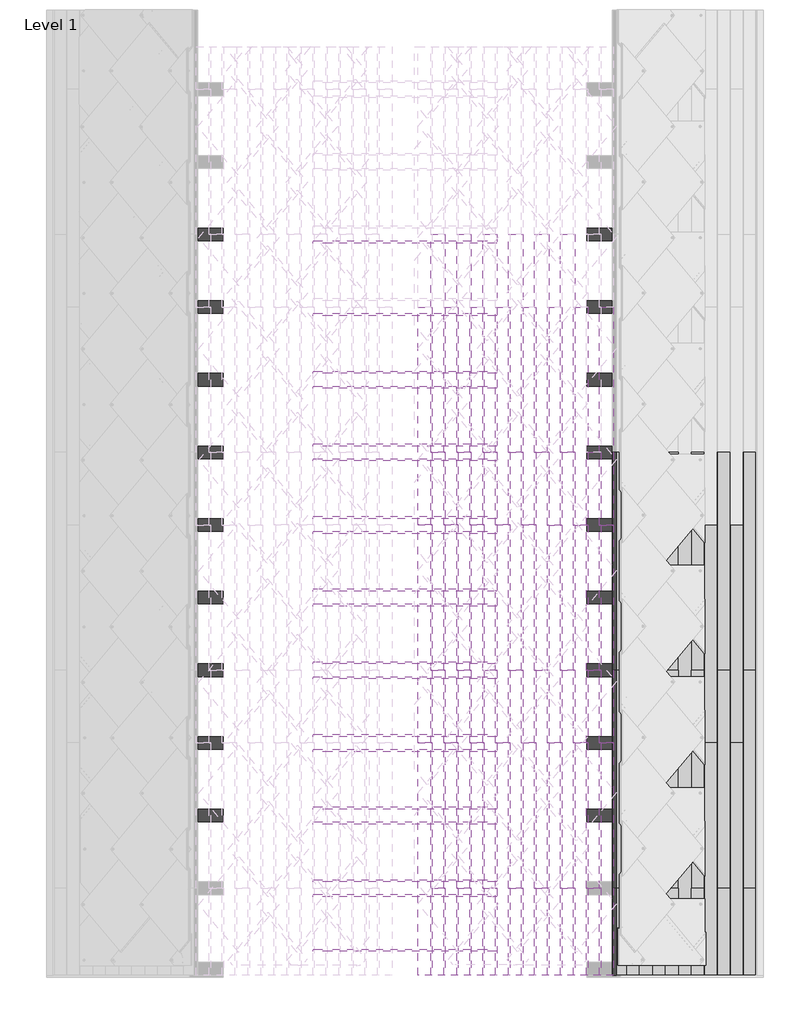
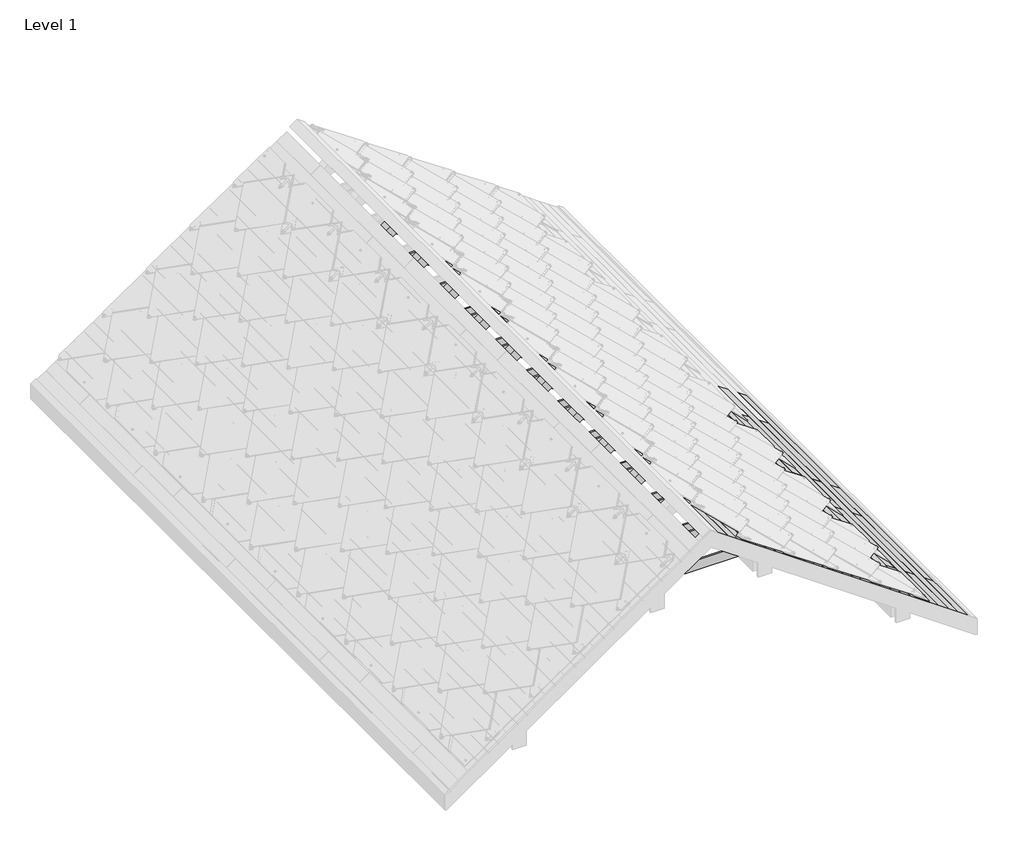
# One storey, part 2 of 6: 109 beams.
"""IFC4 building model written with IfcOpenShell, lengths in millimetres."""

from ifc_helpers import new_model, si_unit, origin, place, context, project, spatial, transform, mapped, element, save
from components import structural_framing_1_structural_framing_1_4f4e03de, structural_framing_161_structural_framing_15_e03e88da, structural_framing_163_structural_framing_15_fd44f6a2, structural_framing_156_structural_framing_15_8572bb24, structural_framing_159_structural_framing_15_e730e61d, structural_framing_296_structural_framing_296_04115515, structural_framing_298_structural_framing_296_1c13a3da

model = new_model("IFC4")

# Units and contexts
model_context = context("Model", 3, world=origin())
ifc_project = project(units=[si_unit("LENGTHUNIT", "METRE", prefix="MILLI")], contexts=[model_context])

# Site, building, storey
site = spatial("IfcSite", under=ifc_project)
building = spatial("IfcBuilding", under=site)
storey = spatial("IfcBuildingStorey", under=building, Name="Level 1", Elevation=0.0)

# Beams
placement = place(None, origin())
structural_framing_1_structural_framing_1_shape = structural_framing_1_structural_framing_1_4f4e03de(model_context)
element("IfcBeam", 1, ObjectType="Structural Framing 10 : Structural Framing 1", at=placement, inside=storey, context=model_context, shape_type="MappedRepresentation", body=[
    mapped(structural_framing_1_structural_framing_1_shape, transform((57.4878711, -7200.0, 0.0), x_axis=(1.0, 0.0, 0.0), y_axis=(0.0, 1.0, 0.0), z_axis=(0.0, 0.0, 1.0))),
])
element("IfcBeam", 2, ObjectType="Structural Framing 11 : Structural Framing 1", at=placement, inside=storey, context=model_context, shape_type="MappedRepresentation", body=[
    mapped(structural_framing_1_structural_framing_1_shape, transform((57.4878711, -8000.0, 0.0), x_axis=(1.0, 0.0, 0.0), y_axis=(0.0, 1.0, 0.0), z_axis=(0.0, 0.0, 1.0))),
])
element("IfcBeam", 3, ObjectType="Structural Framing 12 : Structural Framing 1", at=placement, inside=storey, context=model_context, shape_type="MappedRepresentation", body=[
    mapped(structural_framing_1_structural_framing_1_shape, transform((57.4878711, -8800.0, 0.0), x_axis=(1.0, 0.0, 0.0), y_axis=(0.0, 1.0, 0.0), z_axis=(0.0, 0.0, 1.0))),
])
structural_framing_161_structural_framing_15_shape = structural_framing_161_structural_framing_15_e03e88da(model_context)
element("IfcBeam", 4, ObjectType="Structural Framing 161 : Structural Framing 15", at=placement, inside=storey, context=model_context, shape_type="MappedRepresentation", body=[
    mapped(structural_framing_161_structural_framing_15_shape, transform((200.3026718, -3340.0, -100.0), x_axis=(1.0, 0.0, 0.0), y_axis=(0.0, 1.0, 0.0), z_axis=(0.0, 0.0, 1.0))),
])
element("IfcBeam", 5, ObjectType="Structural Framing 162 : Structural Framing 15", at=placement, inside=storey, context=model_context, shape_type="MappedRepresentation", body=[
    mapped(structural_framing_161_structural_framing_15_shape, transform((200.3026718, -5740.0, -100.0), x_axis=(1.0, 0.0, 0.0), y_axis=(0.0, 1.0, 0.0), z_axis=(0.0, 0.0, 1.0))),
])
structural_framing_163_structural_framing_15_shape = structural_framing_163_structural_framing_15_fd44f6a2(model_context)
element("IfcBeam", 6, ObjectType="Structural Framing 163 : Structural Framing 15", at=placement, inside=storey, context=model_context, shape_type="MappedRepresentation", body=[
    mapped(structural_framing_163_structural_framing_15_shape, transform((200.3026718, -8140.0, -100.0), x_axis=(1.0, 0.0, 0.0), y_axis=(0.0, 1.0, 0.0), z_axis=(0.0, 0.0, 1.0))),
])
structural_framing_156_structural_framing_15_shape = structural_framing_156_structural_framing_15_8572bb24(model_context)
element("IfcBeam", 7, ObjectType="Structural Framing 166 : Structural Framing 15", at=placement, inside=storey, context=model_context, shape_type="MappedRepresentation", body=[
    mapped(structural_framing_156_structural_framing_15_shape, transform((343.1174725, -2470.0, -200.0), x_axis=(1.0, 0.0, 0.0), y_axis=(0.0, 1.0, 0.0), z_axis=(0.0, 0.0, 1.0))),
])
element("IfcBeam", 8, ObjectType="Structural Framing 167 : Structural Framing 15", at=placement, inside=storey, context=model_context, shape_type="MappedRepresentation", body=[
    mapped(structural_framing_156_structural_framing_15_shape, transform((343.1174725, -4870.0, -200.0), x_axis=(1.0, 0.0, 0.0), y_axis=(0.0, 1.0, 0.0), z_axis=(0.0, 0.0, 1.0))),
])
element("IfcBeam", 9, ObjectType="Structural Framing 168 : Structural Framing 15", at=placement, inside=storey, context=model_context, shape_type="MappedRepresentation", body=[
    mapped(structural_framing_156_structural_framing_15_shape, transform((343.1174725, -7270.0, -200.0), x_axis=(1.0, 0.0, 0.0), y_axis=(0.0, 1.0, 0.0), z_axis=(0.0, 0.0, 1.0))),
])
structural_framing_159_structural_framing_15_shape = structural_framing_159_structural_framing_15_e730e61d(model_context)
element("IfcBeam", 10, ObjectType="Structural Framing 169 : Structural Framing 15", at=placement, inside=storey, context=model_context, shape_type="MappedRepresentation", body=[
    mapped(structural_framing_159_structural_framing_15_shape, transform((343.1174725, -9670.0, -200.0), x_axis=(1.0, 0.0, 0.0), y_axis=(0.0, 1.0, 0.0), z_axis=(0.0, 0.0, 1.0))),
])
element("IfcBeam", 11, ObjectType="Structural Framing 171 : Structural Framing 15", at=placement, inside=storey, context=model_context, shape_type="MappedRepresentation", body=[
    mapped(structural_framing_161_structural_framing_15_shape, transform((485.9322731, -3340.0, -300.0), x_axis=(1.0, 0.0, 0.0), y_axis=(0.0, 1.0, 0.0), z_axis=(0.0, 0.0, 1.0))),
])
element("IfcBeam", 12, ObjectType="Structural Framing 172 : Structural Framing 15", at=placement, inside=storey, context=model_context, shape_type="MappedRepresentation", body=[
    mapped(structural_framing_161_structural_framing_15_shape, transform((485.9322731, -5740.0, -300.0), x_axis=(1.0, 0.0, 0.0), y_axis=(0.0, 1.0, 0.0), z_axis=(0.0, 0.0, 1.0))),
])
element("IfcBeam", 13, ObjectType="Structural Framing 173 : Structural Framing 15", at=placement, inside=storey, context=model_context, shape_type="MappedRepresentation", body=[
    mapped(structural_framing_163_structural_framing_15_shape, transform((485.9322731, -8140.0, -300.0), x_axis=(1.0, 0.0, 0.0), y_axis=(0.0, 1.0, 0.0), z_axis=(0.0, 0.0, 1.0))),
])
element("IfcBeam", 14, ObjectType="Structural Framing 176 : Structural Framing 15", at=placement, inside=storey, context=model_context, shape_type="MappedRepresentation", body=[
    mapped(structural_framing_156_structural_framing_15_shape, transform((628.7470738, -2470.0, -400.0), x_axis=(1.0, 0.0, 0.0), y_axis=(0.0, 1.0, 0.0), z_axis=(0.0, 0.0, 1.0))),
])
element("IfcBeam", 15, ObjectType="Structural Framing 177 : Structural Framing 15", at=placement, inside=storey, context=model_context, shape_type="MappedRepresentation", body=[
    mapped(structural_framing_156_structural_framing_15_shape, transform((628.7470738, -4870.0, -400.0), x_axis=(1.0, 0.0, 0.0), y_axis=(0.0, 1.0, 0.0), z_axis=(0.0, 0.0, 1.0))),
])
element("IfcBeam", 16, ObjectType="Structural Framing 178 : Structural Framing 15", at=placement, inside=storey, context=model_context, shape_type="MappedRepresentation", body=[
    mapped(structural_framing_156_structural_framing_15_shape, transform((628.7470738, -7270.0, -400.0), x_axis=(1.0, 0.0, 0.0), y_axis=(0.0, 1.0, 0.0), z_axis=(0.0, 0.0, 1.0))),
])
element("IfcBeam", 17, ObjectType="Structural Framing 179 : Structural Framing 15", at=placement, inside=storey, context=model_context, shape_type="MappedRepresentation", body=[
    mapped(structural_framing_159_structural_framing_15_shape, transform((628.7470738, -9670.0, -400.0), x_axis=(1.0, 0.0, 0.0), y_axis=(0.0, 1.0, 0.0), z_axis=(0.0, 0.0, 1.0))),
])
element("IfcBeam", 18, ObjectType="Structural Framing 181 : Structural Framing 15", at=placement, inside=storey, context=model_context, shape_type="MappedRepresentation", body=[
    mapped(structural_framing_161_structural_framing_15_shape, transform((771.5618745, -3340.0, -500.0), x_axis=(1.0, 0.0, 0.0), y_axis=(0.0, 1.0, 0.0), z_axis=(0.0, 0.0, 1.0))),
])
element("IfcBeam", 19, ObjectType="Structural Framing 182 : Structural Framing 15", at=placement, inside=storey, context=model_context, shape_type="MappedRepresentation", body=[
    mapped(structural_framing_161_structural_framing_15_shape, transform((771.5618745, -5740.0, -500.0), x_axis=(1.0, 0.0, 0.0), y_axis=(0.0, 1.0, 0.0), z_axis=(0.0, 0.0, 1.0))),
])
element("IfcBeam", 20, ObjectType="Structural Framing 183 : Structural Framing 15", at=placement, inside=storey, context=model_context, shape_type="MappedRepresentation", body=[
    mapped(structural_framing_163_structural_framing_15_shape, transform((771.5618745, -8140.0, -500.0), x_axis=(1.0, 0.0, 0.0), y_axis=(0.0, 1.0, 0.0), z_axis=(0.0, 0.0, 1.0))),
])
element("IfcBeam", 21, ObjectType="Structural Framing 186 : Structural Framing 15", at=placement, inside=storey, context=model_context, shape_type="MappedRepresentation", body=[
    mapped(structural_framing_156_structural_framing_15_shape, transform((914.3766752, -2470.0, -600.0), x_axis=(1.0, 0.0, 0.0), y_axis=(0.0, 1.0, 0.0), z_axis=(0.0, 0.0, 1.0))),
])
element("IfcBeam", 22, ObjectType="Structural Framing 187 : Structural Framing 15", at=placement, inside=storey, context=model_context, shape_type="MappedRepresentation", body=[
    mapped(structural_framing_156_structural_framing_15_shape, transform((914.3766752, -4870.0, -600.0), x_axis=(1.0, 0.0, 0.0), y_axis=(0.0, 1.0, 0.0), z_axis=(0.0, 0.0, 1.0))),
])
element("IfcBeam", 23, ObjectType="Structural Framing 188 : Structural Framing 15", at=placement, inside=storey, context=model_context, shape_type="MappedRepresentation", body=[
    mapped(structural_framing_156_structural_framing_15_shape, transform((914.3766752, -7270.0, -600.0), x_axis=(1.0, 0.0, 0.0), y_axis=(0.0, 1.0, 0.0), z_axis=(0.0, 0.0, 1.0))),
])
element("IfcBeam", 24, ObjectType="Structural Framing 189 : Structural Framing 15", at=placement, inside=storey, context=model_context, shape_type="MappedRepresentation", body=[
    mapped(structural_framing_159_structural_framing_15_shape, transform((914.3766752, -9670.0, -600.0), x_axis=(1.0, 0.0, 0.0), y_axis=(0.0, 1.0, 0.0), z_axis=(0.0, 0.0, 1.0))),
])
element("IfcBeam", 25, ObjectType="Structural Framing 191 : Structural Framing 15", at=placement, inside=storey, context=model_context, shape_type="MappedRepresentation", body=[
    mapped(structural_framing_161_structural_framing_15_shape, transform((1057.1914758, -3340.0, -700.0), x_axis=(1.0, 0.0, 0.0), y_axis=(0.0, 1.0, 0.0), z_axis=(0.0, 0.0, 1.0))),
])
element("IfcBeam", 26, ObjectType="Structural Framing 192 : Structural Framing 15", at=placement, inside=storey, context=model_context, shape_type="MappedRepresentation", body=[
    mapped(structural_framing_161_structural_framing_15_shape, transform((1057.1914758, -5740.0, -700.0), x_axis=(1.0, 0.0, 0.0), y_axis=(0.0, 1.0, 0.0), z_axis=(0.0, 0.0, 1.0))),
])
element("IfcBeam", 27, ObjectType="Structural Framing 193 : Structural Framing 15", at=placement, inside=storey, context=model_context, shape_type="MappedRepresentation", body=[
    mapped(structural_framing_163_structural_framing_15_shape, transform((1057.1914758, -8140.0, -700.0), x_axis=(1.0, 0.0, 0.0), y_axis=(0.0, 1.0, 0.0), z_axis=(0.0, 0.0, 1.0))),
])
element("IfcBeam", 28, ObjectType="Structural Framing 196 : Structural Framing 15", at=placement, inside=storey, context=model_context, shape_type="MappedRepresentation", body=[
    mapped(structural_framing_156_structural_framing_15_shape, transform((1200.0062765, -2470.0, -800.0), x_axis=(1.0, 0.0, 0.0), y_axis=(0.0, 1.0, 0.0), z_axis=(0.0, 0.0, 1.0))),
])
element("IfcBeam", 29, ObjectType="Structural Framing 197 : Structural Framing 15", at=placement, inside=storey, context=model_context, shape_type="MappedRepresentation", body=[
    mapped(structural_framing_156_structural_framing_15_shape, transform((1200.0062765, -4870.0, -800.0), x_axis=(1.0, 0.0, 0.0), y_axis=(0.0, 1.0, 0.0), z_axis=(0.0, 0.0, 1.0))),
])
element("IfcBeam", 30, ObjectType="Structural Framing 198 : Structural Framing 15", at=placement, inside=storey, context=model_context, shape_type="MappedRepresentation", body=[
    mapped(structural_framing_156_structural_framing_15_shape, transform((1200.0062765, -7270.0, -800.0), x_axis=(1.0, 0.0, 0.0), y_axis=(0.0, 1.0, 0.0), z_axis=(0.0, 0.0, 1.0))),
])
element("IfcBeam", 31, ObjectType="Structural Framing 199 : Structural Framing 15", at=placement, inside=storey, context=model_context, shape_type="MappedRepresentation", body=[
    mapped(structural_framing_159_structural_framing_15_shape, transform((1200.0062765, -9670.0, -800.0), x_axis=(1.0, 0.0, 0.0), y_axis=(0.0, 1.0, 0.0), z_axis=(0.0, 0.0, 1.0))),
])
element("IfcBeam", 32, ObjectType="Structural Framing 201 : Structural Framing 15", at=placement, inside=storey, context=model_context, shape_type="MappedRepresentation", body=[
    mapped(structural_framing_161_structural_framing_15_shape, transform((1342.8210772, -3340.0, -900.0), x_axis=(1.0, 0.0, 0.0), y_axis=(0.0, 1.0, 0.0), z_axis=(0.0, 0.0, 1.0))),
])
element("IfcBeam", 33, ObjectType="Structural Framing 202 : Structural Framing 15", at=placement, inside=storey, context=model_context, shape_type="MappedRepresentation", body=[
    mapped(structural_framing_161_structural_framing_15_shape, transform((1342.8210772, -5740.0, -900.0), x_axis=(1.0, 0.0, 0.0), y_axis=(0.0, 1.0, 0.0), z_axis=(0.0, 0.0, 1.0))),
])
element("IfcBeam", 34, ObjectType="Structural Framing 203 : Structural Framing 15", at=placement, inside=storey, context=model_context, shape_type="MappedRepresentation", body=[
    mapped(structural_framing_163_structural_framing_15_shape, transform((1342.8210772, -8140.0, -900.0), x_axis=(1.0, 0.0, 0.0), y_axis=(0.0, 1.0, 0.0), z_axis=(0.0, 0.0, 1.0))),
])
element("IfcBeam", 35, ObjectType="Structural Framing 206 : Structural Framing 15", at=placement, inside=storey, context=model_context, shape_type="MappedRepresentation", body=[
    mapped(structural_framing_156_structural_framing_15_shape, transform((1485.6358779, -2470.0, -1000.0), x_axis=(1.0, 0.0, 0.0), y_axis=(0.0, 1.0, 0.0), z_axis=(0.0, 0.0, 1.0))),
])
element("IfcBeam", 36, ObjectType="Structural Framing 207 : Structural Framing 15", at=placement, inside=storey, context=model_context, shape_type="MappedRepresentation", body=[
    mapped(structural_framing_156_structural_framing_15_shape, transform((1485.6358779, -4870.0, -1000.0), x_axis=(1.0, 0.0, 0.0), y_axis=(0.0, 1.0, 0.0), z_axis=(0.0, 0.0, 1.0))),
])
element("IfcBeam", 37, ObjectType="Structural Framing 208 : Structural Framing 15", at=placement, inside=storey, context=model_context, shape_type="MappedRepresentation", body=[
    mapped(structural_framing_156_structural_framing_15_shape, transform((1485.6358779, -7270.0, -1000.0), x_axis=(1.0, 0.0, 0.0), y_axis=(0.0, 1.0, 0.0), z_axis=(0.0, 0.0, 1.0))),
])
element("IfcBeam", 38, ObjectType="Structural Framing 209 : Structural Framing 15", at=placement, inside=storey, context=model_context, shape_type="MappedRepresentation", body=[
    mapped(structural_framing_159_structural_framing_15_shape, transform((1485.6358779, -9670.0, -1000.0), x_axis=(1.0, 0.0, 0.0), y_axis=(0.0, 1.0, 0.0), z_axis=(0.0, 0.0, 1.0))),
])
element("IfcBeam", 39, ObjectType="Structural Framing 211 : Structural Framing 15", at=placement, inside=storey, context=model_context, shape_type="MappedRepresentation", body=[
    mapped(structural_framing_161_structural_framing_15_shape, transform((1628.4506785, -3340.0, -1100.0), x_axis=(1.0, 0.0, 0.0), y_axis=(0.0, 1.0, 0.0), z_axis=(0.0, 0.0, 1.0))),
])
element("IfcBeam", 40, ObjectType="Structural Framing 212 : Structural Framing 15", at=placement, inside=storey, context=model_context, shape_type="MappedRepresentation", body=[
    mapped(structural_framing_161_structural_framing_15_shape, transform((1628.4506785, -5740.0, -1100.0), x_axis=(1.0, 0.0, 0.0), y_axis=(0.0, 1.0, 0.0), z_axis=(0.0, 0.0, 1.0))),
])
element("IfcBeam", 41, ObjectType="Structural Framing 213 : Structural Framing 15", at=placement, inside=storey, context=model_context, shape_type="MappedRepresentation", body=[
    mapped(structural_framing_163_structural_framing_15_shape, transform((1628.4506785, -8140.0, -1100.0), x_axis=(1.0, 0.0, 0.0), y_axis=(0.0, 1.0, 0.0), z_axis=(0.0, 0.0, 1.0))),
])
element("IfcBeam", 42, ObjectType="Structural Framing 216 : Structural Framing 15", at=placement, inside=storey, context=model_context, shape_type="MappedRepresentation", body=[
    mapped(structural_framing_156_structural_framing_15_shape, transform((1771.2654792, -2470.0, -1200.0), x_axis=(1.0, 0.0, 0.0), y_axis=(0.0, 1.0, 0.0), z_axis=(0.0, 0.0, 1.0))),
])
element("IfcBeam", 43, ObjectType="Structural Framing 217 : Structural Framing 15", at=placement, inside=storey, context=model_context, shape_type="MappedRepresentation", body=[
    mapped(structural_framing_156_structural_framing_15_shape, transform((1771.2654792, -4870.0, -1200.0), x_axis=(1.0, 0.0, 0.0), y_axis=(0.0, 1.0, 0.0), z_axis=(0.0, 0.0, 1.0))),
])
element("IfcBeam", 44, ObjectType="Structural Framing 218 : Structural Framing 15", at=placement, inside=storey, context=model_context, shape_type="MappedRepresentation", body=[
    mapped(structural_framing_156_structural_framing_15_shape, transform((1771.2654792, -7270.0, -1200.0), x_axis=(1.0, 0.0, 0.0), y_axis=(0.0, 1.0, 0.0), z_axis=(0.0, 0.0, 1.0))),
])
element("IfcBeam", 45, ObjectType="Structural Framing 219 : Structural Framing 15", at=placement, inside=storey, context=model_context, shape_type="MappedRepresentation", body=[
    mapped(structural_framing_159_structural_framing_15_shape, transform((1771.2654792, -9670.0, -1200.0), x_axis=(1.0, 0.0, 0.0), y_axis=(0.0, 1.0, 0.0), z_axis=(0.0, 0.0, 1.0))),
])
element("IfcBeam", 46, ObjectType="Structural Framing 221 : Structural Framing 15", at=placement, inside=storey, context=model_context, shape_type="MappedRepresentation", body=[
    mapped(structural_framing_161_structural_framing_15_shape, transform((1914.0802799, -3340.0, -1300.0), x_axis=(1.0, 0.0, 0.0), y_axis=(0.0, 1.0, 0.0), z_axis=(0.0, 0.0, 1.0))),
])
element("IfcBeam", 47, ObjectType="Structural Framing 222 : Structural Framing 15", at=placement, inside=storey, context=model_context, shape_type="MappedRepresentation", body=[
    mapped(structural_framing_161_structural_framing_15_shape, transform((1914.0802799, -5740.0, -1300.0), x_axis=(1.0, 0.0, 0.0), y_axis=(0.0, 1.0, 0.0), z_axis=(0.0, 0.0, 1.0))),
])
element("IfcBeam", 48, ObjectType="Structural Framing 223 : Structural Framing 15", at=placement, inside=storey, context=model_context, shape_type="MappedRepresentation", body=[
    mapped(structural_framing_163_structural_framing_15_shape, transform((1914.0802799, -8140.0, -1300.0), x_axis=(1.0, 0.0, 0.0), y_axis=(0.0, 1.0, 0.0), z_axis=(0.0, 0.0, 1.0))),
])
element("IfcBeam", 49, ObjectType="Structural Framing 227 : Structural Framing 15", at=placement, inside=storey, context=model_context, shape_type="MappedRepresentation", body=[
    mapped(structural_framing_156_structural_framing_15_shape, transform((2056.8950805, -4870.0, -1400.0), x_axis=(1.0, 0.0, 0.0), y_axis=(0.0, 1.0, 0.0), z_axis=(0.0, 0.0, 1.0))),
])
element("IfcBeam", 50, ObjectType="Structural Framing 228 : Structural Framing 15", at=placement, inside=storey, context=model_context, shape_type="MappedRepresentation", body=[
    mapped(structural_framing_156_structural_framing_15_shape, transform((2056.8950805, -7270.0, -1400.0), x_axis=(1.0, 0.0, 0.0), y_axis=(0.0, 1.0, 0.0), z_axis=(0.0, 0.0, 1.0))),
])
element("IfcBeam", 51, ObjectType="Structural Framing 229 : Structural Framing 15", at=placement, inside=storey, context=model_context, shape_type="MappedRepresentation", body=[
    mapped(structural_framing_159_structural_framing_15_shape, transform((2056.8950805, -9670.0, -1400.0), x_axis=(1.0, 0.0, 0.0), y_axis=(0.0, 1.0, 0.0), z_axis=(0.0, 0.0, 1.0))),
])
element("IfcBeam", 52, ObjectType="Structural Framing 231 : Structural Framing 15", at=placement, inside=storey, context=model_context, shape_type="MappedRepresentation", body=[
    mapped(structural_framing_161_structural_framing_15_shape, transform((2199.7098812, -3340.0, -1500.0), x_axis=(1.0, 0.0, 0.0), y_axis=(0.0, 1.0, 0.0), z_axis=(0.0, 0.0, 1.0))),
])
element("IfcBeam", 53, ObjectType="Structural Framing 232 : Structural Framing 15", at=placement, inside=storey, context=model_context, shape_type="MappedRepresentation", body=[
    mapped(structural_framing_161_structural_framing_15_shape, transform((2199.7098812, -5740.0, -1500.0), x_axis=(1.0, 0.0, 0.0), y_axis=(0.0, 1.0, 0.0), z_axis=(0.0, 0.0, 1.0))),
])
element("IfcBeam", 54, ObjectType="Structural Framing 233 : Structural Framing 15", at=placement, inside=storey, context=model_context, shape_type="MappedRepresentation", body=[
    mapped(structural_framing_163_structural_framing_15_shape, transform((2199.7098812, -8140.0, -1500.0), x_axis=(1.0, 0.0, 0.0), y_axis=(0.0, 1.0, 0.0), z_axis=(0.0, 0.0, 1.0))),
])
element("IfcBeam", 55, ObjectType="Structural Framing 237 : Structural Framing 15", at=placement, inside=storey, context=model_context, shape_type="MappedRepresentation", body=[
    mapped(structural_framing_156_structural_framing_15_shape, transform((2342.5246819, -4870.0, -1600.0), x_axis=(1.0, 0.0, 0.0), y_axis=(0.0, 1.0, 0.0), z_axis=(0.0, 0.0, 1.0))),
])
element("IfcBeam", 56, ObjectType="Structural Framing 238 : Structural Framing 15", at=placement, inside=storey, context=model_context, shape_type="MappedRepresentation", body=[
    mapped(structural_framing_156_structural_framing_15_shape, transform((2342.5246819, -7270.0, -1600.0), x_axis=(1.0, 0.0, 0.0), y_axis=(0.0, 1.0, 0.0), z_axis=(0.0, 0.0, 1.0))),
])
element("IfcBeam", 57, ObjectType="Structural Framing 239 : Structural Framing 15", at=placement, inside=storey, context=model_context, shape_type="MappedRepresentation", body=[
    mapped(structural_framing_159_structural_framing_15_shape, transform((2342.5246819, -9670.0, -1600.0), x_axis=(1.0, 0.0, 0.0), y_axis=(0.0, 1.0, 0.0), z_axis=(0.0, 0.0, 1.0))),
])
element("IfcBeam", 58, ObjectType="Structural Framing 241 : Structural Framing 15", at=placement, inside=storey, context=model_context, shape_type="MappedRepresentation", body=[
    mapped(structural_framing_161_structural_framing_15_shape, transform((2485.3394826, -3340.0, -1700.0), x_axis=(1.0, 0.0, 0.0), y_axis=(0.0, 1.0, 0.0), z_axis=(0.0, 0.0, 1.0))),
])
element("IfcBeam", 59, ObjectType="Structural Framing 242 : Structural Framing 15", at=placement, inside=storey, context=model_context, shape_type="MappedRepresentation", body=[
    mapped(structural_framing_161_structural_framing_15_shape, transform((2485.3394826, -5740.0, -1700.0), x_axis=(1.0, 0.0, 0.0), y_axis=(0.0, 1.0, 0.0), z_axis=(0.0, 0.0, 1.0))),
])
element("IfcBeam", 60, ObjectType="Structural Framing 243 : Structural Framing 15", at=placement, inside=storey, context=model_context, shape_type="MappedRepresentation", body=[
    mapped(structural_framing_163_structural_framing_15_shape, transform((2485.3394826, -8140.0, -1700.0), x_axis=(1.0, 0.0, 0.0), y_axis=(0.0, 1.0, 0.0), z_axis=(0.0, 0.0, 1.0))),
])
element("IfcBeam", 61, ObjectType="Structural Framing 247 : Structural Framing 15", at=placement, inside=storey, context=model_context, shape_type="MappedRepresentation", body=[
    mapped(structural_framing_156_structural_framing_15_shape, transform((2628.1542832, -4870.0, -1800.0), x_axis=(1.0, 0.0, 0.0), y_axis=(0.0, 1.0, 0.0), z_axis=(0.0, 0.0, 1.0))),
])
element("IfcBeam", 62, ObjectType="Structural Framing 248 : Structural Framing 15", at=placement, inside=storey, context=model_context, shape_type="MappedRepresentation", body=[
    mapped(structural_framing_156_structural_framing_15_shape, transform((2628.1542832, -7270.0, -1800.0), x_axis=(1.0, 0.0, 0.0), y_axis=(0.0, 1.0, 0.0), z_axis=(0.0, 0.0, 1.0))),
])
element("IfcBeam", 63, ObjectType="Structural Framing 249 : Structural Framing 15", at=placement, inside=storey, context=model_context, shape_type="MappedRepresentation", body=[
    mapped(structural_framing_159_structural_framing_15_shape, transform((2628.1542832, -9670.0, -1800.0), x_axis=(1.0, 0.0, 0.0), y_axis=(0.0, 1.0, 0.0), z_axis=(0.0, 0.0, 1.0))),
])
element("IfcBeam", 64, ObjectType="Structural Framing 251 : Structural Framing 15", at=placement, inside=storey, context=model_context, shape_type="MappedRepresentation", body=[
    mapped(structural_framing_161_structural_framing_15_shape, transform((2770.9690839, -3340.0, -1900.0), x_axis=(1.0, 0.0, 0.0), y_axis=(0.0, 1.0, 0.0), z_axis=(0.0, 0.0, 1.0))),
])
element("IfcBeam", 65, ObjectType="Structural Framing 252 : Structural Framing 15", at=placement, inside=storey, context=model_context, shape_type="MappedRepresentation", body=[
    mapped(structural_framing_161_structural_framing_15_shape, transform((2770.9690839, -5740.0, -1900.0), x_axis=(1.0, 0.0, 0.0), y_axis=(0.0, 1.0, 0.0), z_axis=(0.0, 0.0, 1.0))),
])
element("IfcBeam", 66, ObjectType="Structural Framing 253 : Structural Framing 15", at=placement, inside=storey, context=model_context, shape_type="MappedRepresentation", body=[
    mapped(structural_framing_163_structural_framing_15_shape, transform((2770.9690839, -8140.0, -1900.0), x_axis=(1.0, 0.0, 0.0), y_axis=(0.0, 1.0, 0.0), z_axis=(0.0, 0.0, 1.0))),
])
element("IfcBeam", 67, ObjectType="Structural Framing 257 : Structural Framing 15", at=placement, inside=storey, context=model_context, shape_type="MappedRepresentation", body=[
    mapped(structural_framing_156_structural_framing_15_shape, transform((2913.7838846, -4870.0, -2000.0), x_axis=(1.0, 0.0, 0.0), y_axis=(0.0, 1.0, 0.0), z_axis=(0.0, 0.0, 1.0))),
])
element("IfcBeam", 68, ObjectType="Structural Framing 258 : Structural Framing 15", at=placement, inside=storey, context=model_context, shape_type="MappedRepresentation", body=[
    mapped(structural_framing_156_structural_framing_15_shape, transform((2913.7838846, -7270.0, -2000.0), x_axis=(1.0, 0.0, 0.0), y_axis=(0.0, 1.0, 0.0), z_axis=(0.0, 0.0, 1.0))),
])
element("IfcBeam", 69, ObjectType="Structural Framing 259 : Structural Framing 15", at=placement, inside=storey, context=model_context, shape_type="MappedRepresentation", body=[
    mapped(structural_framing_159_structural_framing_15_shape, transform((2913.7838846, -9670.0, -2000.0), x_axis=(1.0, 0.0, 0.0), y_axis=(0.0, 1.0, 0.0), z_axis=(0.0, 0.0, 1.0))),
])
element("IfcBeam", 70, ObjectType="Structural Framing 262 : Structural Framing 15", at=placement, inside=storey, context=model_context, shape_type="MappedRepresentation", body=[
    mapped(structural_framing_161_structural_framing_15_shape, transform((3056.5986853, -5740.0, -2100.0), x_axis=(1.0, 0.0, 0.0), y_axis=(0.0, 1.0, 0.0), z_axis=(0.0, 0.0, 1.0))),
])
element("IfcBeam", 71, ObjectType="Structural Framing 263 : Structural Framing 15", at=placement, inside=storey, context=model_context, shape_type="MappedRepresentation", body=[
    mapped(structural_framing_163_structural_framing_15_shape, transform((3056.5986853, -8140.0, -2100.0), x_axis=(1.0, 0.0, 0.0), y_axis=(0.0, 1.0, 0.0), z_axis=(0.0, 0.0, 1.0))),
])
element("IfcBeam", 72, ObjectType="Structural Framing 267 : Structural Framing 15", at=placement, inside=storey, context=model_context, shape_type="MappedRepresentation", body=[
    mapped(structural_framing_156_structural_framing_15_shape, transform((3199.4134859, -4870.0, -2200.0), x_axis=(1.0, 0.0, 0.0), y_axis=(0.0, 1.0, 0.0), z_axis=(0.0, 0.0, 1.0))),
])
element("IfcBeam", 73, ObjectType="Structural Framing 268 : Structural Framing 15", at=placement, inside=storey, context=model_context, shape_type="MappedRepresentation", body=[
    mapped(structural_framing_156_structural_framing_15_shape, transform((3199.4134859, -7270.0, -2200.0), x_axis=(1.0, 0.0, 0.0), y_axis=(0.0, 1.0, 0.0), z_axis=(0.0, 0.0, 1.0))),
])
element("IfcBeam", 74, ObjectType="Structural Framing 269 : Structural Framing 15", at=placement, inside=storey, context=model_context, shape_type="MappedRepresentation", body=[
    mapped(structural_framing_159_structural_framing_15_shape, transform((3199.4134859, -9670.0, -2200.0), x_axis=(1.0, 0.0, 0.0), y_axis=(0.0, 1.0, 0.0), z_axis=(0.0, 0.0, 1.0))),
])
element("IfcBeam", 75, ObjectType="Structural Framing 272 : Structural Framing 15", at=placement, inside=storey, context=model_context, shape_type="MappedRepresentation", body=[
    mapped(structural_framing_161_structural_framing_15_shape, transform((3342.2282866, -5740.0, -2300.0), x_axis=(1.0, 0.0, 0.0), y_axis=(0.0, 1.0, 0.0), z_axis=(0.0, 0.0, 1.0))),
])
element("IfcBeam", 76, ObjectType="Structural Framing 273 : Structural Framing 15", at=placement, inside=storey, context=model_context, shape_type="MappedRepresentation", body=[
    mapped(structural_framing_163_structural_framing_15_shape, transform((3342.2282866, -8140.0, -2300.0), x_axis=(1.0, 0.0, 0.0), y_axis=(0.0, 1.0, 0.0), z_axis=(0.0, 0.0, 1.0))),
])
element("IfcBeam", 77, ObjectType="Structural Framing 277 : Structural Framing 15", at=placement, inside=storey, context=model_context, shape_type="MappedRepresentation", body=[
    mapped(structural_framing_156_structural_framing_15_shape, transform((3485.0430873, -4870.0, -2400.0), x_axis=(1.0, 0.0, 0.0), y_axis=(0.0, 1.0, 0.0), z_axis=(0.0, 0.0, 1.0))),
])
element("IfcBeam", 78, ObjectType="Structural Framing 278 : Structural Framing 15", at=placement, inside=storey, context=model_context, shape_type="MappedRepresentation", body=[
    mapped(structural_framing_156_structural_framing_15_shape, transform((3485.0430873, -7270.0, -2400.0), x_axis=(1.0, 0.0, 0.0), y_axis=(0.0, 1.0, 0.0), z_axis=(0.0, 0.0, 1.0))),
])
element("IfcBeam", 79, ObjectType="Structural Framing 279 : Structural Framing 15", at=placement, inside=storey, context=model_context, shape_type="MappedRepresentation", body=[
    mapped(structural_framing_159_structural_framing_15_shape, transform((3485.0430873, -9670.0, -2400.0), x_axis=(1.0, 0.0, 0.0), y_axis=(0.0, 1.0, 0.0), z_axis=(0.0, 0.0, 1.0))),
])
element("IfcBeam", 80, ObjectType="Structural Framing 282 : Structural Framing 15", at=placement, inside=storey, context=model_context, shape_type="MappedRepresentation", body=[
    mapped(structural_framing_161_structural_framing_15_shape, transform((3627.857888, -5740.0, -2500.0), x_axis=(1.0, 0.0, 0.0), y_axis=(0.0, 1.0, 0.0), z_axis=(0.0, 0.0, 1.0))),
])
element("IfcBeam", 81, ObjectType="Structural Framing 283 : Structural Framing 15", at=placement, inside=storey, context=model_context, shape_type="MappedRepresentation", body=[
    mapped(structural_framing_163_structural_framing_15_shape, transform((3627.857888, -8140.0, -2500.0), x_axis=(1.0, 0.0, 0.0), y_axis=(0.0, 1.0, 0.0), z_axis=(0.0, 0.0, 1.0))),
])
element("IfcBeam", 82, ObjectType="Structural Framing 287 : Structural Framing 15", at=placement, inside=storey, context=model_context, shape_type="MappedRepresentation", body=[
    mapped(structural_framing_156_structural_framing_15_shape, transform((3770.6726886, -4870.0, -2600.0), x_axis=(1.0, 0.0, 0.0), y_axis=(0.0, 1.0, 0.0), z_axis=(0.0, 0.0, 1.0))),
])
element("IfcBeam", 83, ObjectType="Structural Framing 288 : Structural Framing 15", at=placement, inside=storey, context=model_context, shape_type="MappedRepresentation", body=[
    mapped(structural_framing_156_structural_framing_15_shape, transform((3770.6726886, -7270.0, -2600.0), x_axis=(1.0, 0.0, 0.0), y_axis=(0.0, 1.0, 0.0), z_axis=(0.0, 0.0, 1.0))),
])
element("IfcBeam", 84, ObjectType="Structural Framing 289 : Structural Framing 15", at=placement, inside=storey, context=model_context, shape_type="MappedRepresentation", body=[
    mapped(structural_framing_159_structural_framing_15_shape, transform((3770.6726886, -9670.0, -2600.0), x_axis=(1.0, 0.0, 0.0), y_axis=(0.0, 1.0, 0.0), z_axis=(0.0, 0.0, 1.0))),
])
structural_framing_296_structural_framing_296_shape = structural_framing_296_structural_framing_296_04115515(model_context)
element("IfcBeam", 85, ObjectType="Structural Framing 301 : Structural Framing 296", at=placement, inside=storey, context=model_context, shape_type="MappedRepresentation", body=[
    mapped(structural_framing_296_structural_framing_296_shape, transform((57.4878711, -2400.0, 0.0), x_axis=(1.0, 0.0, 0.0), y_axis=(0.0, 1.0, 0.0), z_axis=(0.0, 0.0, 1.0))),
])
element("IfcBeam", 86, ObjectType="Structural Framing 303 : Structural Framing 296", at=placement, inside=storey, context=model_context, shape_type="MappedRepresentation", body=[
    mapped(structural_framing_296_structural_framing_296_shape, transform((57.4878711, -3200.0, 0.0), x_axis=(1.0, 0.0, 0.0), y_axis=(0.0, 1.0, 0.0), z_axis=(0.0, 0.0, 1.0))),
])
element("IfcBeam", 87, ObjectType="Structural Framing 305 : Structural Framing 296", at=placement, inside=storey, context=model_context, shape_type="MappedRepresentation", body=[
    mapped(structural_framing_296_structural_framing_296_shape, transform((57.4878711, -4000.0, 0.0), x_axis=(1.0, 0.0, 0.0), y_axis=(0.0, 1.0, 0.0), z_axis=(0.0, 0.0, 1.0))),
])
structural_framing_298_structural_framing_296_shape = structural_framing_298_structural_framing_296_1c13a3da(model_context)
element("IfcBeam", 88, ObjectType="Structural Framing 306 : Structural Framing 296", at=placement, inside=storey, context=model_context, shape_type="MappedRepresentation", body=[
    mapped(structural_framing_298_structural_framing_296_shape, transform((57.4878711, -2400.0, 0.0), x_axis=(1.0, 0.0, 0.0), y_axis=(0.0, 1.0, 0.0), z_axis=(0.0, 0.0, 1.0))),
])
element("IfcBeam", 89, ObjectType="Structural Framing 307 : Structural Framing 296", at=placement, inside=storey, context=model_context, shape_type="MappedRepresentation", body=[
    mapped(structural_framing_296_structural_framing_296_shape, transform((57.4878711, -4800.0, 0.0), x_axis=(1.0, 0.0, 0.0), y_axis=(0.0, 1.0, 0.0), z_axis=(0.0, 0.0, 1.0))),
])
element("IfcBeam", 90, ObjectType="Structural Framing 308 : Structural Framing 296", at=placement, inside=storey, context=model_context, shape_type="MappedRepresentation", body=[
    mapped(structural_framing_298_structural_framing_296_shape, transform((57.4878711, -3200.0, 0.0), x_axis=(1.0, 0.0, 0.0), y_axis=(0.0, 1.0, 0.0), z_axis=(0.0, 0.0, 1.0))),
])
element("IfcBeam", 91, ObjectType="Structural Framing 309 : Structural Framing 296", at=placement, inside=storey, context=model_context, shape_type="MappedRepresentation", body=[
    mapped(structural_framing_296_structural_framing_296_shape, transform((57.4878711, -5600.0, 0.0), x_axis=(1.0, 0.0, 0.0), y_axis=(0.0, 1.0, 0.0), z_axis=(0.0, 0.0, 1.0))),
])
element("IfcBeam", 92, ObjectType="Structural Framing 310 : Structural Framing 296", at=placement, inside=storey, context=model_context, shape_type="MappedRepresentation", body=[
    mapped(structural_framing_298_structural_framing_296_shape, transform((57.4878711, -4000.0, 0.0), x_axis=(1.0, 0.0, 0.0), y_axis=(0.0, 1.0, 0.0), z_axis=(0.0, 0.0, 1.0))),
])
element("IfcBeam", 93, ObjectType="Structural Framing 311 : Structural Framing 296", at=placement, inside=storey, context=model_context, shape_type="MappedRepresentation", body=[
    mapped(structural_framing_296_structural_framing_296_shape, transform((57.4878711, -6400.0, 0.0), x_axis=(1.0, 0.0, 0.0), y_axis=(0.0, 1.0, 0.0), z_axis=(0.0, 0.0, 1.0))),
])
element("IfcBeam", 94, ObjectType="Structural Framing 312 : Structural Framing 296", at=placement, inside=storey, context=model_context, shape_type="MappedRepresentation", body=[
    mapped(structural_framing_298_structural_framing_296_shape, transform((57.4878711, -4800.0, 0.0), x_axis=(1.0, 0.0, 0.0), y_axis=(0.0, 1.0, 0.0), z_axis=(0.0, 0.0, 1.0))),
])
element("IfcBeam", 95, ObjectType="Structural Framing 313 : Structural Framing 296", at=placement, inside=storey, context=model_context, shape_type="MappedRepresentation", body=[
    mapped(structural_framing_296_structural_framing_296_shape, transform((57.4878711, -7200.0, 0.0), x_axis=(1.0, 0.0, 0.0), y_axis=(0.0, 1.0, 0.0), z_axis=(0.0, 0.0, 1.0))),
])
element("IfcBeam", 96, ObjectType="Structural Framing 314 : Structural Framing 296", at=placement, inside=storey, context=model_context, shape_type="MappedRepresentation", body=[
    mapped(structural_framing_298_structural_framing_296_shape, transform((57.4878711, -5600.0, 0.0), x_axis=(1.0, 0.0, 0.0), y_axis=(0.0, 1.0, 0.0), z_axis=(0.0, 0.0, 1.0))),
])
element("IfcBeam", 97, ObjectType="Structural Framing 315 : Structural Framing 296", at=placement, inside=storey, context=model_context, shape_type="MappedRepresentation", body=[
    mapped(structural_framing_296_structural_framing_296_shape, transform((57.4878711, -8000.0, 0.0), x_axis=(1.0, 0.0, 0.0), y_axis=(0.0, 1.0, 0.0), z_axis=(0.0, 0.0, 1.0))),
])
element("IfcBeam", 98, ObjectType="Structural Framing 316 : Structural Framing 296", at=placement, inside=storey, context=model_context, shape_type="MappedRepresentation", body=[
    mapped(structural_framing_298_structural_framing_296_shape, transform((57.4878711, -6400.0, 0.0), x_axis=(1.0, 0.0, 0.0), y_axis=(0.0, 1.0, 0.0), z_axis=(0.0, 0.0, 1.0))),
])
element("IfcBeam", 99, ObjectType="Structural Framing 317 : Structural Framing 296", at=placement, inside=storey, context=model_context, shape_type="MappedRepresentation", body=[
    mapped(structural_framing_296_structural_framing_296_shape, transform((57.4878711, -8800.0, 0.0), x_axis=(1.0, 0.0, 0.0), y_axis=(0.0, 1.0, 0.0), z_axis=(0.0, 0.0, 1.0))),
])
element("IfcBeam", 100, ObjectType="Structural Framing 318 : Structural Framing 296", at=placement, inside=storey, context=model_context, shape_type="MappedRepresentation", body=[
    mapped(structural_framing_298_structural_framing_296_shape, transform((57.4878711, -7200.0, 0.0), x_axis=(1.0, 0.0, 0.0), y_axis=(0.0, 1.0, 0.0), z_axis=(0.0, 0.0, 1.0))),
])
element("IfcBeam", 101, ObjectType="Structural Framing 319 : Structural Framing 296", at=placement, inside=storey, context=model_context, shape_type="MappedRepresentation", body=[
    mapped(structural_framing_296_structural_framing_296_shape, transform((57.4878711, -9600.0, 0.0), x_axis=(1.0, 0.0, 0.0), y_axis=(0.0, 1.0, 0.0), z_axis=(0.0, 0.0, 1.0))),
])
element("IfcBeam", 102, ObjectType="Structural Framing 320 : Structural Framing 296", at=placement, inside=storey, context=model_context, shape_type="MappedRepresentation", body=[
    mapped(structural_framing_298_structural_framing_296_shape, transform((57.4878711, -8000.0, 0.0), x_axis=(1.0, 0.0, 0.0), y_axis=(0.0, 1.0, 0.0), z_axis=(0.0, 0.0, 1.0))),
])
element("IfcBeam", 103, ObjectType="Structural Framing 322 : Structural Framing 296", at=placement, inside=storey, context=model_context, shape_type="MappedRepresentation", body=[
    mapped(structural_framing_298_structural_framing_296_shape, transform((57.4878711, -8767.5, 0.0), x_axis=(1.0, 0.0, 0.0), y_axis=(0.0, 1.0, 0.0), z_axis=(0.0, 0.0, 1.0))),
])
element("IfcBeam", 104, ObjectType="Structural Framing 4 : Structural Framing 1", at=placement, inside=storey, context=model_context, shape_type="MappedRepresentation", body=[
    mapped(structural_framing_1_structural_framing_1_shape, transform((57.4878711, -2400.0, 0.0), x_axis=(1.0, 0.0, 0.0), y_axis=(0.0, 1.0, 0.0), z_axis=(0.0, 0.0, 1.0))),
])
element("IfcBeam", 105, ObjectType="Structural Framing 5 : Structural Framing 1", at=placement, inside=storey, context=model_context, shape_type="MappedRepresentation", body=[
    mapped(structural_framing_1_structural_framing_1_shape, transform((57.4878711, -3200.0, 0.0), x_axis=(1.0, 0.0, 0.0), y_axis=(0.0, 1.0, 0.0), z_axis=(0.0, 0.0, 1.0))),
])
element("IfcBeam", 106, ObjectType="Structural Framing 6 : Structural Framing 1", at=placement, inside=storey, context=model_context, shape_type="MappedRepresentation", body=[
    mapped(structural_framing_1_structural_framing_1_shape, transform((57.4878711, -4000.0, 0.0), x_axis=(1.0, 0.0, 0.0), y_axis=(0.0, 1.0, 0.0), z_axis=(0.0, 0.0, 1.0))),
])
element("IfcBeam", 107, ObjectType="Structural Framing 7 : Structural Framing 1", at=placement, inside=storey, context=model_context, shape_type="MappedRepresentation", body=[
    mapped(structural_framing_1_structural_framing_1_shape, transform((57.4878711, -4800.0, 0.0), x_axis=(1.0, 0.0, 0.0), y_axis=(0.0, 1.0, 0.0), z_axis=(0.0, 0.0, 1.0))),
])
element("IfcBeam", 108, ObjectType="Structural Framing 8 : Structural Framing 1", at=placement, inside=storey, context=model_context, shape_type="MappedRepresentation", body=[
    mapped(structural_framing_1_structural_framing_1_shape, transform((57.4878711, -5600.0, 0.0), x_axis=(1.0, 0.0, 0.0), y_axis=(0.0, 1.0, 0.0), z_axis=(0.0, 0.0, 1.0))),
])
element("IfcBeam", 109, ObjectType="Structural Framing 9 : Structural Framing 1", at=placement, inside=storey, context=model_context, shape_type="MappedRepresentation", body=[
    mapped(structural_framing_1_structural_framing_1_shape, transform((57.4878711, -6400.0, 0.0), x_axis=(1.0, 0.0, 0.0), y_axis=(0.0, 1.0, 0.0), z_axis=(0.0, 0.0, 1.0))),
])

save(model, "model.ifc")
